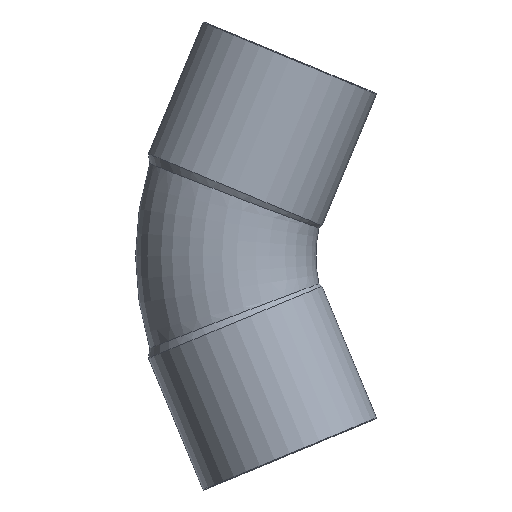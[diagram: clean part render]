
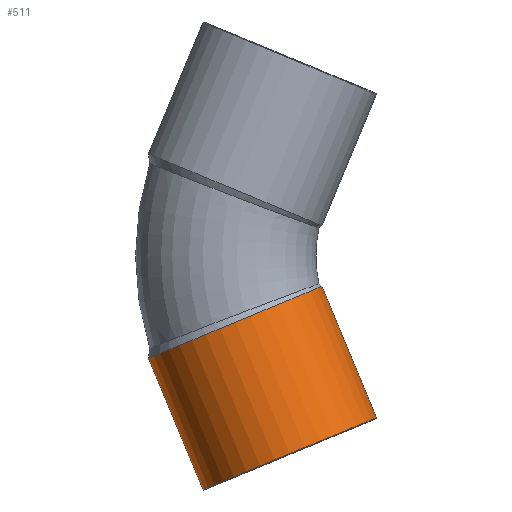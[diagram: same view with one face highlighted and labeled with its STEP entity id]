
A CAD part, front view. The second image highlights one B-rep face of the part: STEP entity #511.
In plain terms, the highlighted cylindrical face has radius 27.1 mm (diameter 54.2 mm), a partial arc.
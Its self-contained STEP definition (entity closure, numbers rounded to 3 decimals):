
#201=CARTESIAN_POINT('',(-80.22,0.,-29.5));
#202=VERTEX_POINT('',#201);
#209=CARTESIAN_POINT('',(-30.146,0.,-8.758));
#210=VERTEX_POINT('',#209);
#211=CARTESIAN_POINT('',(-55.183,0.,-19.129));
#212=DIRECTION('',(-0.383,0.,0.924));
#213=DIRECTION('',(0.924,0.,0.383));
#214=AXIS2_PLACEMENT_3D('',#211,#212,#213);
#215=CIRCLE('',#214,27.1);
#216=EDGE_CURVE('',#202,#210,#215,.T.);
#480=CARTESIAN_POINT('',(-55.07,0.,-19.401));
#481=DIRECTION('',(0.383,0.,-0.924));
#482=DIRECTION('',(0.924,0.,0.383));
#483=AXIS2_PLACEMENT_3D('',#480,#481,#482);
#484=CYLINDRICAL_SURFACE('',#483,27.1);
#485=CARTESIAN_POINT('',(-14.419,0.,-46.725));
#486=VERTEX_POINT('',#485);
#487=CARTESIAN_POINT('',(-30.146,0.,-8.758));
#488=DIRECTION('',(0.383,0.,-0.924));
#489=VECTOR('',#488,41.095);
#490=LINE('',#487,#489);
#491=EDGE_CURVE('',#210,#486,#490,.T.);
#492=ORIENTED_EDGE('',*,*,#491,.F.);
#493=ORIENTED_EDGE('',*,*,#216,.F.);
#494=CARTESIAN_POINT('',(-64.494,0.,-67.466));
#495=VERTEX_POINT('',#494);
#496=CARTESIAN_POINT('',(-64.494,0.,-67.466));
#497=DIRECTION('',(-0.383,0.,0.924));
#498=VECTOR('',#497,41.095);
#499=LINE('',#496,#498);
#500=EDGE_CURVE('',#495,#202,#499,.T.);
#501=ORIENTED_EDGE('',*,*,#500,.F.);
#502=CARTESIAN_POINT('',(-39.456,0.,-57.096));
#503=DIRECTION('',(0.383,0.,-0.924));
#504=DIRECTION('',(0.924,0.,0.383));
#505=AXIS2_PLACEMENT_3D('',#502,#503,#504);
#506=CIRCLE('',#505,27.1);
#507=EDGE_CURVE('',#486,#495,#506,.T.);
#508=ORIENTED_EDGE('',*,*,#507,.F.);
#509=EDGE_LOOP('',(#492,#493,#501,#508));
#510=FACE_OUTER_BOUND('',#509,.T.);
#511=ADVANCED_FACE('',(#510),#484,.T.);
